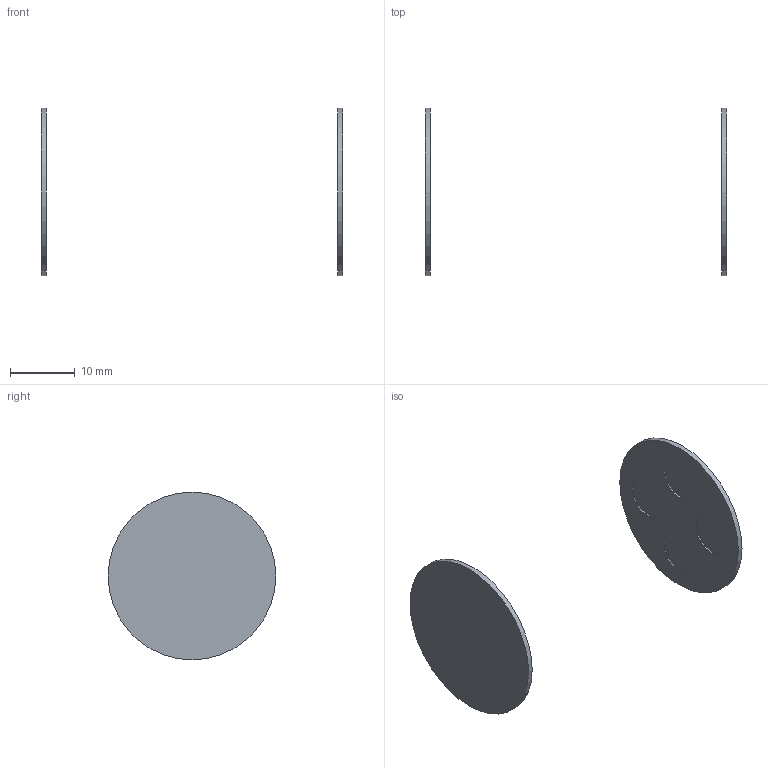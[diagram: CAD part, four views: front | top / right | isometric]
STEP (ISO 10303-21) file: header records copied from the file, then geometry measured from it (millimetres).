
FILE_DESCRIPTION(/* description */ ('Flush 0.8 mm cosmetic horn caps; retention is provisional and not print-ready.'),/* implementation_level */ '2;1');
FILE_NAME(/* name */ '22 elbow flush horn caps.step',/* time_stamp */ '2026-10-02T18:55:07+01:00',/* author */ (''),/* organization */ (''),/* preprocessor_version */ 'ST-DEVELOPER v20.2',/* originating_system */ 'Autodesk Translation Framework v15.15.0.0',/* authorisation */ '');
FILE_SCHEMA (('AUTOMOTIVE_DESIGN { 1 0 10303 214 3 1 1 }'));
Length unit declared in the file: millimetre
Products named in the file (1): 2026-10-02-18-55-06-930
Bounding box: 46.8 x 26 x 26 mm (x, y, z)
Volume: 792 mm3; surface area: 2289.2 mm2
Topology: 2 solids, 2 shells, 22 faces, 30 edges, 20 vertices
Faces by surface type: plane 12, cylinder 10
Full cylindrical faces by diameter (mm): 6.6 x8, 26 x2
Entity records: 506 total; most frequent: DIRECTION 96, CARTESIAN_POINT 73, ORIENTED_EDGE 60, AXIS2_PLACEMENT_3D 43, EDGE_LOOP 30, EDGE_CURVE 30, FACE_OUTER_BOUND 22, ADVANCED_FACE 22
